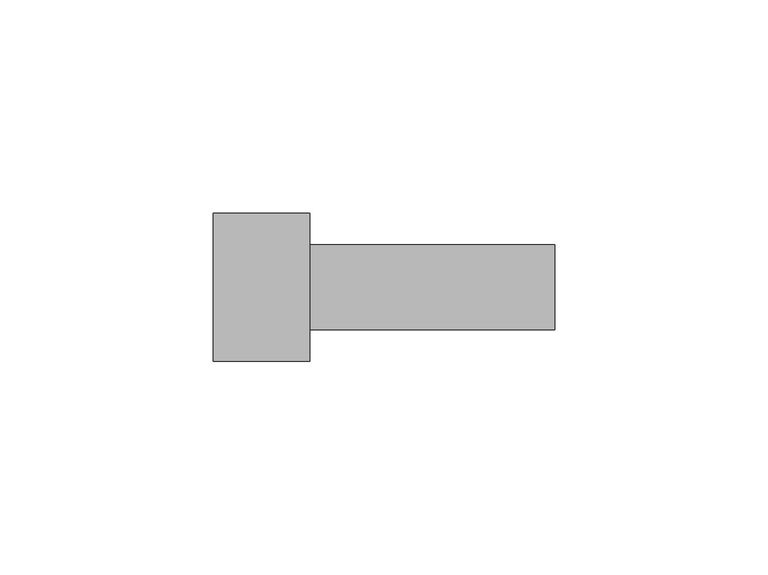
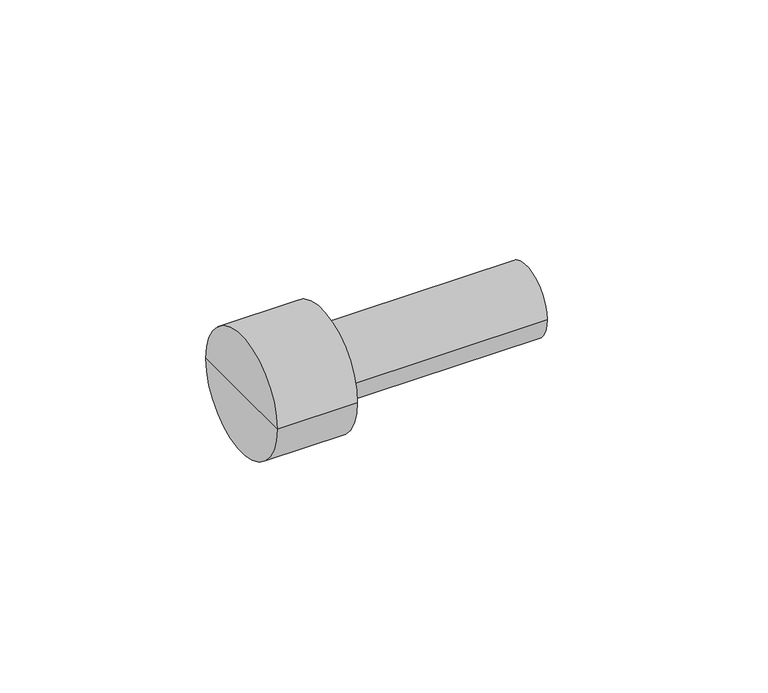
"""IFC4 building model written with IfcOpenShell, lengths in millimetres: cable carrier fitting geometry, Муфта прямая труба-коробка BS : CTA10D-BS16-K41-050."""

from ifc_helpers import new_model, si_unit, frame, origin, place, context, project, spatial, circle_curve, source, transform, mapped, element, save
from ifc_brep_helpers import plane_surface, cylinder_surface, advanced_brep


def cable_carrier_fitting_3c8e73ad(model_context):
    return source(origin(), model_context, "Body", "AdvancedBrep", [
        advanced_brep(
        [(-17.4590195, -10.0, 0.0), (-17.4590195, 10.0, 0.0), (40.0, 10.0, 0.0), (40.0, -10.0, 0.0), (-40.0, 0.0, 0.0), (-40.0, 17.3253393, 0.0), (-40.0, -17.3253393, 0.0), (40.0, 0.0, 0.0), (-17.4590195, -17.3253393, 0.0), (-17.4590195, 17.3253393, 0.0)],
        [
            (0, 1, circle_curve(frame((-17.4590195, 0.0, 0.0), z_axis=(1.0, 0.0, 0.0), x_axis=(0.0, 1.0, 0.0)), 10.0)),
            (1, 2),
            (2, 3, circle_curve(frame((40.0, 0.0, 0.0), z_axis=(-1.0, 0.0, 0.0), x_axis=(0.0, 1.0, 0.0)), 10.0)),
            (3, 0),
            (1, 0, circle_curve(frame((-17.4590195, 0.0, 0.0), z_axis=(1.0, 0.0, 0.0), x_axis=(0.0, 1.0, 0.0)), 10.0)),
            (3, 2, circle_curve(frame((40.0, 0.0, 0.0), z_axis=(-1.0, 0.0, 0.0), x_axis=(0.0, 1.0, 0.0)), 10.0)),
            (4, 5),
            (5, 6, circle_curve(frame((-40.0, 0.0, 0.0), z_axis=(-1.0, 0.0, 0.0), x_axis=(0.0, 1.0, 0.0)), 17.3253393)),
            (6, 4),
            (6, 5, circle_curve(frame((-40.0, 0.0, 0.0), z_axis=(-1.0, 0.0, 0.0), x_axis=(0.0, 1.0, 0.0)), 17.3253393)),
            (2, 7),
            (7, 3),
            (8, 9, circle_curve(frame((-17.4590195, 0.0, 0.0), z_axis=(1.0, 0.0, 0.0), x_axis=(0.0, 1.0, 0.0)), 17.3253393)),
            (9, 1),
            (0, 8),
            (9, 8, circle_curve(frame((-17.4590195, 0.0, 0.0), z_axis=(1.0, 0.0, 0.0), x_axis=(0.0, 1.0, 0.0)), 17.3253393)),
            (5, 9),
            (8, 6),
        ],
        [
            cylinder_surface(frame((1965.0, 0.0, 0.0), z_axis=(-1.0, 0.0, 0.0), x_axis=(0.0, 1.0, 0.0)), 10.0),
            plane_surface(frame((-40.0, 0.0, 0.0), z_axis=(-1.0, 0.0, 0.0), x_axis=(0.0, 1.0, 0.0))),
            plane_surface(frame((40.0, 0.0, 0.0), z_axis=(1.0, 0.0, 0.0), x_axis=(0.0, 1.0, 0.0))),
            plane_surface(frame((-17.4590195, 0.0, 0.0), z_axis=(1.0, 0.0, 0.0), x_axis=(0.0, 1.0, 0.0))),
            cylinder_surface(frame((1965.0, 0.0, 0.0), z_axis=(-1.0, 0.0, 0.0), x_axis=(0.0, 1.0, 0.0)), 17.3253393),
        ],
        [
            (0, [[1, 2, 3, 4]]),
            (0, [[5, -4, 6, -2]]),
            (1, [[7, 8, 9]]),
            (1, [[-9, 10, -7]]),
            (2, [[-3, 11, 12]]),
            (2, [[-6, -12, -11]]),
            (3, [[13, 14, -1, 15]]),
            (3, [[16, -15, -5, -14]]),
            (4, [[-8, 17, -13, 18]]),
            (4, [[-10, -18, -16, -17]]),
        ],
    ),
    ])


if __name__ == "__main__":
    model = new_model("IFC4")
    model_context = context("Model", 3, world=origin())
    ifc_project = project(units=[si_unit("LENGTHUNIT", "METRE", prefix="MILLI")], contexts=[model_context])
    site = spatial("IfcSite", under=ifc_project)
    building = spatial("IfcBuilding", under=site)
    placement = place(None, origin())
    cable_carrier_fitting_shape = cable_carrier_fitting_3c8e73ad(model_context)
    element("IfcCableCarrierFitting", 1, ObjectType="Муфта прямая труба-коробка BS : CTA10D-BS16-K41-050", at=placement, inside=building, context=model_context, shape_type="MappedRepresentation", body=[
        mapped(cable_carrier_fitting_shape, transform((0.0, 0.0, 0.0), x_axis=(1.0, 0.0, 0.0), y_axis=(0.0, 1.0, 0.0), z_axis=(0.0, 0.0, 1.0))),
    ])
    save(model, "model.ifc")
